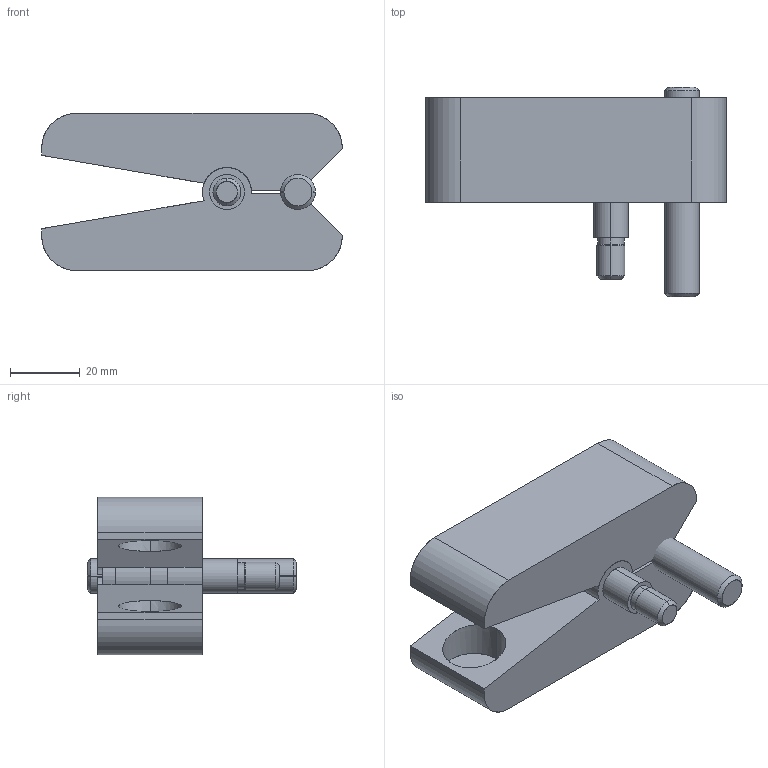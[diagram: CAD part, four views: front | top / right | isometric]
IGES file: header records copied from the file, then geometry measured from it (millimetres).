
Start section: SolidWorks IGES file using analytic representation for surfaces
Global section: file name: D:\Cleonir_particular\Matripeças\Trava de Gaveta\TRV40RT.IGS; native system: SolidWorks 2013; preprocessor: SolidWorks 2013; author: Cleonir; date: 130307.132715; units: millimetre
Bounding box: 86 x 60 x 45 mm (x, y, z)
Surface area: 23833 mm2 (no closed solid volume)
Topology: 0 solids, 0 shells, 341 faces, 4400 edges, 4400 vertices
Faces by surface type: bspline 283, revolution 58
